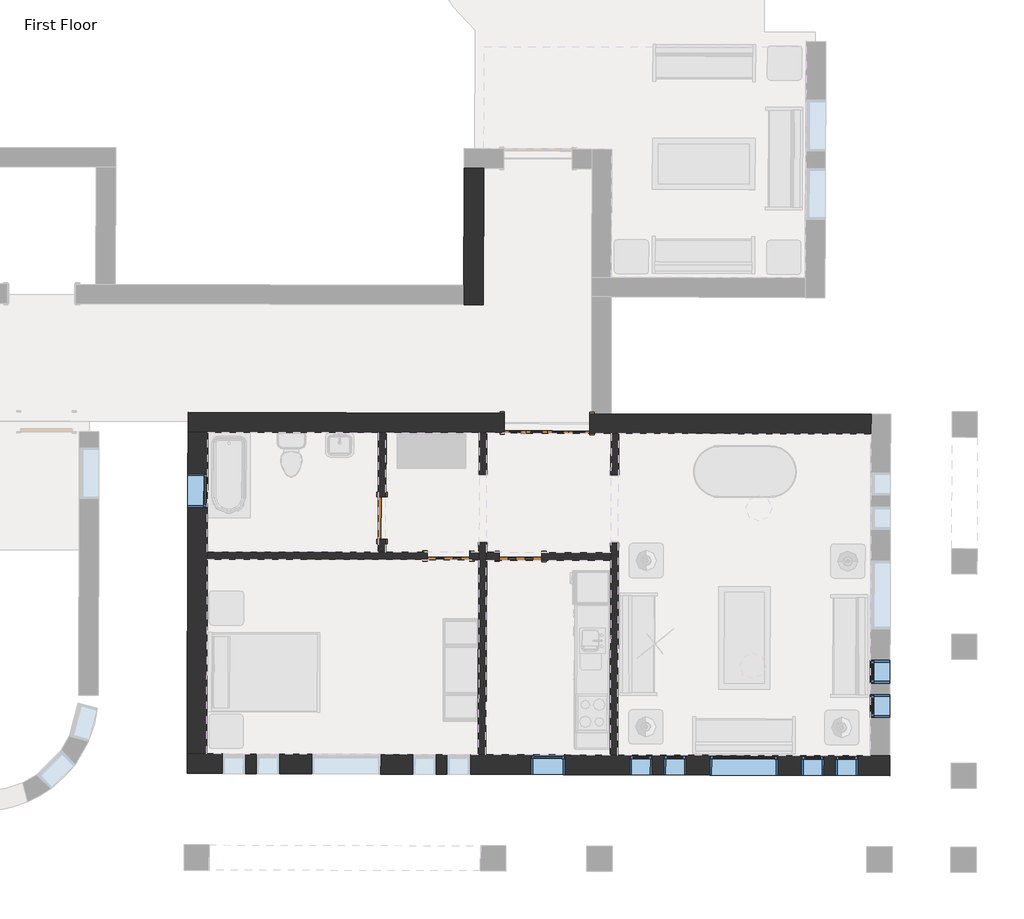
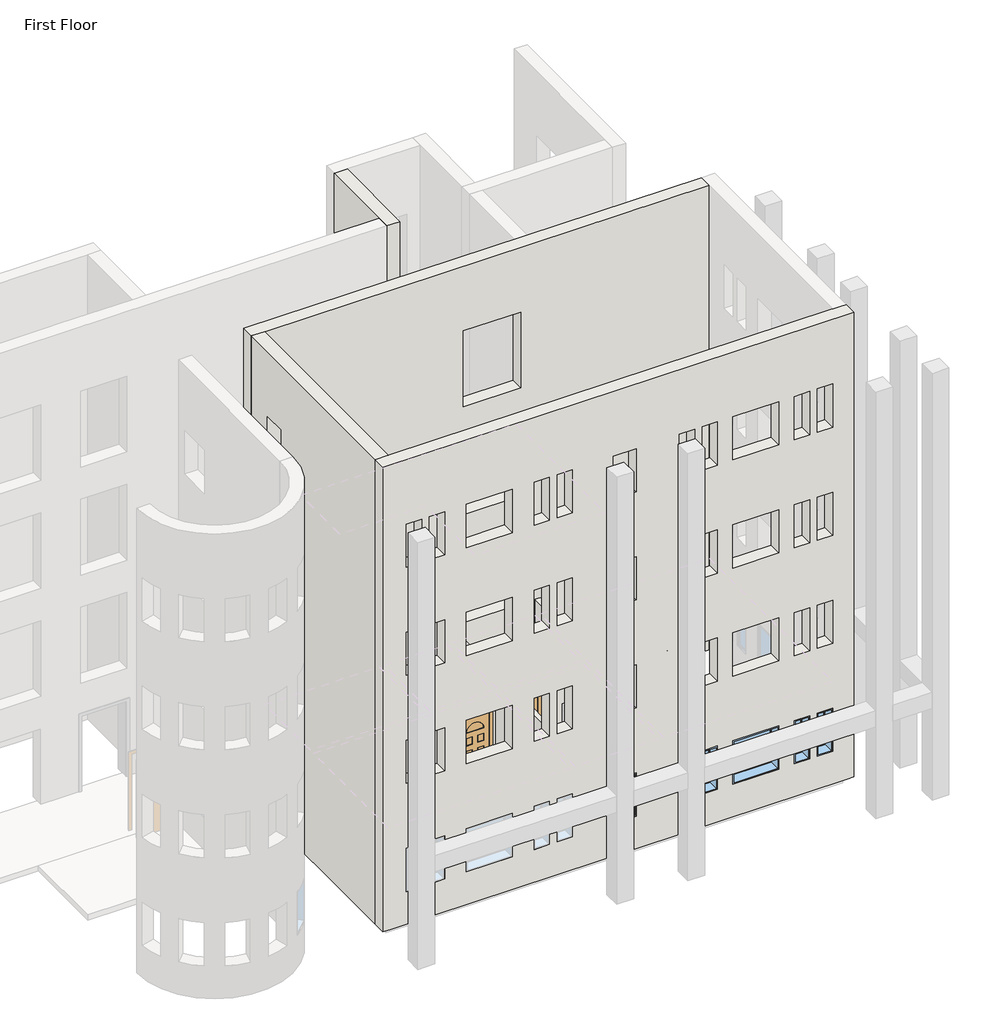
# One storey, part 4 of 23: 9 windows, 8 walls, 4 doors.
"""IFC4 building model written with IfcOpenShell, lengths in millimetres."""

from ifc_helpers import new_model, si_unit, frame, origin, place, context, project, spatial, polyline, outline, extrude, faceted_brep, transform, mapped, element, save
from components import m_bifold_4_panel_1525_x_2134mm_ac598c8b, m_single_decorative_2_0762_x_2134mm_0d0af7cb, m_single_decorative_2_0762_x_2134mm_2fe67c8e, m_single_flush_0762_x_2134mm_a28375c7, m_fixed_0406_x_1220mm_57fee329, m_fixed_0406_x_1220mm_85c28f40, m_fixed_0610_x_1220mm_1ea27827, m_fixed_1220_x_1220mm_8f5f8ad3

model = new_model("IFC4")

# Units and contexts
model_context = context("Model", 3, world=origin())
ifc_project = project(units=[si_unit("LENGTHUNIT", "METRE", prefix="MILLI")], contexts=[model_context])

# Site, building, storey
site = spatial("IfcSite", under=ifc_project)
building = spatial("IfcBuilding", under=site)
storey = spatial("IfcBuildingStorey", under=building, Name="First Floor", Elevation=0.0)

# Doors
placement = place(None, origin())
m_bifold_4_panel_1525_x_2134mm_shape = m_bifold_4_panel_1525_x_2134mm_ac598c8b(model_context)
element("IfcDoor", 1, ObjectType="M_Bifold-4 Panel : 1525 x 2134mm", at=placement, inside=storey, context=model_context, shape_type="MappedRepresentation", body=[
    mapped(m_bifold_4_panel_1525_x_2134mm_shape, transform((-8922.9440871, -35884.2994497, 0.0), x_axis=(0.9999958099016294, -0.0028948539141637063, 0.0), y_axis=(0.0028948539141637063, 0.9999958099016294, 0.0), z_axis=(0.0, 0.0, 1.0))),
])
m_single_decorative_2_0762_x_2134mm_shape = m_single_decorative_2_0762_x_2134mm_0d0af7cb(model_context)
element("IfcDoor", 2, ObjectType="M_Single-Decorative 2 : 0762 x 2134mm", at=placement, inside=storey, context=model_context, shape_type="MappedRepresentation", body=[
    mapped(m_single_decorative_2_0762_x_2134mm_shape, transform((-10682.8170859, -38255.9648119, 0.0), x_axis=(0.9999958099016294, -0.002894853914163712, 0.0), y_axis=(0.002894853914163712, 0.9999958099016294, 0.0), z_axis=(0.0, 0.0, 1.0))),
])
m_single_decorative_2_0762_x_2134mm_2_shape = m_single_decorative_2_0762_x_2134mm_2fe67c8e(model_context)
element("IfcDoor", 3, ObjectType="M_Single-Decorative 2 : 0762 x 2134mm", at=placement, inside=storey, context=model_context, shape_type="MappedRepresentation", body=[
    mapped(m_single_decorative_2_0762_x_2134mm_2_shape, transform((-9396.0724775, -38259.6897652, 0.0), x_axis=(-0.9999958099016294, 0.002894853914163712, 0.0), y_axis=(-0.002894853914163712, -0.9999958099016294, 0.0), z_axis=(0.0, 0.0, 1.0))),
])
m_single_flush_0762_x_2134mm_shape = m_single_flush_0762_x_2134mm_a28375c7(model_context)
element("IfcDoor", 4, ObjectType="M_Single-Flush : 0762 x 2134mm", at=placement, inside=storey, context=model_context, shape_type="MappedRepresentation", body=[
    mapped(m_single_flush_0762_x_2134mm_shape, transform((-11871.3501103, -37574.7713282, 0.0), x_axis=(-0.002894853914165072, -0.9999958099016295, 0.0), y_axis=(0.9999958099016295, -0.002894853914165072, 0.0), z_axis=(0.0, 0.0, 1.0))),
])

# Walls
element("IfcWall", 5, ObjectType="Exterior - Brick on Mtl. Stud", at=placement, inside=storey, context=model_context, shape_type="Brep", body=[
    faceted_brep([(-15350.3208606, -42136.7193311, 0.0), (-15165.3216358, -42137.2548791, 0.0), (-2993.3726377, -42172.4910409, 0.0), (-2808.3734128, -42173.0265889, 0.0), (-2808.3734128, -42173.0265889, 13107.0), (-15350.3208606, -42136.7193311, 13107.0), (-8602.199136, -42156.2542395, 915.0), (-9212.1965801, -42154.4883787, 915.0), (-9212.1965801, -42154.4883787, 2135.0), (-8602.199136, -42156.2542395, 2135.0), (-11898.3353248, -42146.7123668, 915.0), (-13118.3302129, -42143.180645, 915.0), (-13118.3302129, -42143.180645, 2135.0), (-11898.3353248, -42146.7123668, 2135.0), (-4800.4900656, -42167.259678, 915.0), (-6020.4849537, -42163.7279563, 915.0), (-6020.4849537, -42163.7279563, 2135.0), (-4800.4900656, -42167.259678, 2135.0), (-14312.3252099, -42139.7241895, 915.0), (-14718.3235087, -42138.5488788, 915.0), (-14718.3235087, -42138.5488788, 2135.0), (-14312.3252099, -42139.7241895, 2135.0), (-13702.3277659, -42141.4900504, 915.0), (-14108.3260647, -42140.3147397, 915.0), (-14108.3260647, -42140.3147397, 2135.0), (-13702.3277659, -42141.4900504, 2135.0), (-11314.3377718, -42148.4029615, 915.0), (-11314.3377718, -42148.4029615, 2135.0), (-10908.339473, -42149.5782722, 2135.0), (-10908.339473, -42149.5782722, 915.0), (-10704.3403278, -42150.1688224, 915.0), (-10704.3403278, -42150.1688224, 2135.0), (-10298.342029, -42151.3441331, 2135.0), (-10298.342029, -42151.3441331, 915.0), (-6435.3582153, -42162.5269538, 915.0), (-6841.3565142, -42161.3516431, 915.0), (-6841.3565142, -42161.3516431, 2135.0), (-6435.3582153, -42162.5269538, 2135.0), (-7045.3556594, -42160.7610929, 915.0), (-7451.3539582, -42159.5857822, 915.0), (-7451.3539582, -42159.5857822, 2135.0), (-7045.3556594, -42160.7610929, 2135.0), (-4385.616804, -42168.4606806, 915.0), (-4385.616804, -42168.4606806, 2135.0), (-3979.6185052, -42169.6359913, 2135.0), (-3979.6185052, -42169.6359913, 915.0), (-3775.6193599, -42170.2265415, 915.0), (-3775.6193599, -42170.2265415, 2135.0), (-3369.6210611, -42171.4018521, 2135.0), (-3369.6210611, -42171.4018521, 915.0), (-4385.616804, -42168.4606806, 10059.0), (-4385.616804, -42168.4606806, 11279.0), (-3979.6185052, -42169.6359913, 11279.0), (-3979.6185052, -42169.6359913, 10059.0), (-3775.6193599, -42170.2265415, 10059.0), (-3775.6193599, -42170.2265415, 11279.0), (-3369.6210611, -42171.4018521, 11279.0), (-3369.6210611, -42171.4018521, 10059.0), (-6435.3582153, -42162.5269538, 10059.0), (-6841.3565142, -42161.3516431, 10059.0), (-6841.3565142, -42161.3516431, 11279.0), (-6435.3582153, -42162.5269538, 11279.0), (-7045.3556594, -42160.7610929, 10059.0), (-7451.3539582, -42159.5857822, 10059.0), (-7451.3539582, -42159.5857822, 11279.0), (-7045.3556594, -42160.7610929, 11279.0), (-11314.3377718, -42148.4029615, 10059.0), (-11314.3377718, -42148.4029615, 11279.0), (-10908.339473, -42149.5782722, 11279.0), (-10908.339473, -42149.5782722, 10059.0), (-10704.3403278, -42150.1688224, 10059.0), (-10704.3403278, -42150.1688224, 11279.0), (-10298.342029, -42151.3441331, 11279.0), (-10298.342029, -42151.3441331, 10059.0), (-13702.3277659, -42141.4900504, 10059.0), (-14108.3260647, -42140.3147397, 10059.0), (-14108.3260647, -42140.3147397, 11279.0), (-13702.3277659, -42141.4900504, 11279.0), (-14312.3252099, -42139.7241895, 10059.0), (-14718.3235087, -42138.5488788, 10059.0), (-14718.3235087, -42138.5488788, 11279.0), (-14312.3252099, -42139.7241895, 11279.0), (-4800.4900656, -42167.259678, 10059.0), (-6020.4849537, -42163.7279563, 10059.0), (-6020.4849537, -42163.7279563, 11279.0), (-4800.4900656, -42167.259678, 11279.0), (-11898.3353248, -42146.7123668, 10059.0), (-13118.3302129, -42143.180645, 10059.0), (-13118.3302129, -42143.180645, 11279.0), (-11898.3353248, -42146.7123668, 11279.0), (-8602.199136, -42156.2542395, 10059.0), (-9212.1965801, -42154.4883787, 10059.0), (-9212.1965801, -42154.4883787, 11279.0), (-8602.199136, -42156.2542395, 11279.0), (-4385.616804, -42168.4606806, 3963.0), (-4385.616804, -42168.4606806, 5183.0), (-3979.6185052, -42169.6359913, 5183.0), (-3979.6185052, -42169.6359913, 3963.0), (-3775.6193599, -42170.2265415, 3963.0), (-3775.6193599, -42170.2265415, 5183.0), (-3369.6210611, -42171.4018521, 5183.0), (-3369.6210611, -42171.4018521, 3963.0), (-6435.3582153, -42162.5269538, 3963.0), (-6841.3565142, -42161.3516431, 3963.0), (-6841.3565142, -42161.3516431, 5183.0), (-6435.3582153, -42162.5269538, 5183.0), (-7045.3556594, -42160.7610929, 3963.0), (-7451.3539582, -42159.5857822, 3963.0), (-7451.3539582, -42159.5857822, 5183.0), (-7045.3556594, -42160.7610929, 5183.0), (-11314.3377718, -42148.4029615, 3963.0), (-11314.3377718, -42148.4029615, 5183.0), (-10908.339473, -42149.5782722, 5183.0), (-10908.339473, -42149.5782722, 3963.0), (-10704.3403278, -42150.1688224, 3963.0), (-10704.3403278, -42150.1688224, 5183.0), (-10298.342029, -42151.3441331, 5183.0), (-10298.342029, -42151.3441331, 3963.0), (-13702.3277659, -42141.4900504, 3963.0), (-14108.3260647, -42140.3147397, 3963.0), (-14108.3260647, -42140.3147397, 5183.0), (-13702.3277659, -42141.4900504, 5183.0), (-14312.3252099, -42139.7241895, 3963.0), (-14718.3235087, -42138.5488788, 3963.0), (-14718.3235087, -42138.5488788, 5183.0), (-14312.3252099, -42139.7241895, 5183.0), (-4800.4900656, -42167.259678, 3963.0), (-6020.4849537, -42163.7279563, 3963.0), (-6020.4849537, -42163.7279563, 5183.0), (-4800.4900656, -42167.259678, 5183.0), (-11898.3353248, -42146.7123668, 3963.0), (-13118.3302129, -42143.180645, 3963.0), (-13118.3302129, -42143.180645, 5183.0), (-11898.3353248, -42146.7123668, 5183.0), (-8602.199136, -42156.2542395, 3963.0), (-9212.1965801, -42154.4883787, 3963.0), (-9212.1965801, -42154.4883787, 5183.0), (-8602.199136, -42156.2542395, 5183.0), (-4385.616804, -42168.4606806, 7011.0), (-4385.616804, -42168.4606806, 8231.0), (-3979.6185052, -42169.6359913, 8231.0), (-3979.6185052, -42169.6359913, 7011.0), (-3775.6193599, -42170.2265415, 7011.0), (-3775.6193599, -42170.2265415, 8231.0), (-3369.6210611, -42171.4018521, 8231.0), (-3369.6210611, -42171.4018521, 7011.0), (-6435.3582153, -42162.5269538, 7011.0), (-6841.3565142, -42161.3516431, 7011.0), (-6841.3565142, -42161.3516431, 8231.0), (-6435.3582153, -42162.5269538, 8231.0), (-7045.3556594, -42160.7610929, 7011.0), (-7451.3539582, -42159.5857822, 7011.0), (-7451.3539582, -42159.5857822, 8231.0), (-7045.3556594, -42160.7610929, 8231.0), (-11314.3377718, -42148.4029615, 7011.0), (-11314.3377718, -42148.4029615, 8231.0), (-10908.339473, -42149.5782722, 8231.0), (-10908.339473, -42149.5782722, 7011.0), (-10704.3403278, -42150.1688224, 7011.0), (-10704.3403278, -42150.1688224, 8231.0), (-10298.342029, -42151.3441331, 8231.0), (-10298.342029, -42151.3441331, 7011.0), (-13702.3277659, -42141.4900504, 7011.0), (-14108.3260647, -42140.3147397, 7011.0), (-14108.3260647, -42140.3147397, 8231.0), (-13702.3277659, -42141.4900504, 8231.0), (-14312.3252099, -42139.7241895, 7011.0), (-14718.3235087, -42138.5488788, 7011.0), (-14718.3235087, -42138.5488788, 8231.0), (-14312.3252099, -42139.7241895, 8231.0), (-4800.4900656, -42167.259678, 7011.0), (-6020.4849537, -42163.7279563, 7011.0), (-6020.4849537, -42163.7279563, 8231.0), (-4800.4900656, -42167.259678, 8231.0), (-11898.3353248, -42146.7123668, 7011.0), (-13118.3302129, -42143.180645, 7011.0), (-13118.3302129, -42143.180645, 8231.0), (-11898.3353248, -42146.7123668, 8231.0), (-8602.199136, -42156.2542395, 7011.0), (-9212.1965801, -42154.4883787, 7011.0), (-9212.1965801, -42154.4883787, 8231.0), (-8602.199136, -42156.2542395, 8231.0), (-15349.3076617, -41786.7207976, 0.0), (-15349.3076617, -41786.7207976, 13107.0), (-14999.3091283, -41787.7339965, 13107.0), (-3157.3587474, -41822.0148566, 13107.0), (-2807.360214, -41823.0280554, 13107.0), (-2807.360214, -41823.0280554, 0.0), (-2992.3594388, -41822.4925075, 0.0), (-3157.3587474, -41822.0148566, 0.0), (-7661.5898742, -41808.9757108, 0.0), (-7797.0893064, -41808.5834581, 0.0), (-10015.3300117, -41802.1619484, 0.0), (-10150.829444, -41801.7696957, 0.0), (-14999.3091283, -41787.7339965, 0.0), (-15164.3084369, -41787.2563456, 0.0), (-8601.1859371, -41806.2557061, 915.0), (-8601.1859371, -41806.2557061, 2135.0), (-9211.1833812, -41804.4898452, 2135.0), (-9211.1833812, -41804.4898452, 915.0), (-11897.322126, -41796.7138334, 915.0), (-11897.322126, -41796.7138334, 2135.0), (-13117.317014, -41793.1821116, 2135.0), (-13117.317014, -41793.1821116, 915.0), (-4799.4768668, -41817.2611446, 915.0), (-4799.4768668, -41817.2611446, 2135.0), (-6019.4717548, -41813.7294228, 2135.0), (-6019.4717548, -41813.7294228, 915.0), (-14311.3120111, -41789.725656, 915.0), (-14311.3120111, -41789.725656, 2135.0), (-14717.3103099, -41788.5503453, 2135.0), (-14717.3103099, -41788.5503453, 915.0), (-13701.314567, -41791.4915169, 915.0), (-13701.314567, -41791.4915169, 2135.0), (-14107.3128658, -41790.3162062, 2135.0), (-14107.3128658, -41790.3162062, 915.0), (-11313.324573, -41798.404428, 915.0), (-10907.3262742, -41799.5797387, 915.0), (-10907.3262742, -41799.5797387, 2135.0), (-11313.324573, -41798.404428, 2135.0), (-10703.3271289, -41800.1702889, 915.0), (-10297.3288301, -41801.3455996, 915.0), (-10297.3288301, -41801.3455996, 2135.0), (-10703.3271289, -41800.1702889, 2135.0), (-6434.3450165, -41812.5284203, 915.0), (-6434.3450165, -41812.5284203, 2135.0), (-6840.3433153, -41811.3531096, 2135.0), (-6840.3433153, -41811.3531096, 915.0), (-7044.3424605, -41810.7625594, 915.0), (-7044.3424605, -41810.7625594, 2135.0), (-7450.3407593, -41809.5872487, 2135.0), (-7450.3407593, -41809.5872487, 915.0), (-4384.6036051, -41818.4621471, 915.0), (-3978.6053063, -41819.6374578, 915.0), (-3978.6053063, -41819.6374578, 2135.0), (-4384.6036051, -41818.4621471, 2135.0), (-3774.6061611, -41820.228008, 915.0), (-3368.6078623, -41821.4033187, 915.0), (-3368.6078623, -41821.4033187, 2135.0), (-3774.6061611, -41820.228008, 2135.0), (-4384.6036051, -41818.4621471, 10059.0), (-3978.6053063, -41819.6374578, 10059.0), (-3978.6053063, -41819.6374578, 11279.0), (-4384.6036051, -41818.4621471, 11279.0), (-3774.6061611, -41820.228008, 10059.0), (-3368.6078623, -41821.4033187, 10059.0), (-3368.6078623, -41821.4033187, 11279.0), (-3774.6061611, -41820.228008, 11279.0), (-6434.3450165, -41812.5284203, 10059.0), (-6434.3450165, -41812.5284203, 11279.0), (-6840.3433153, -41811.3531096, 11279.0), (-6840.3433153, -41811.3531096, 10059.0), (-7044.3424605, -41810.7625594, 10059.0), (-7044.3424605, -41810.7625594, 11279.0), (-7450.3407593, -41809.5872487, 11279.0), (-7450.3407593, -41809.5872487, 10059.0), (-11313.324573, -41798.404428, 10059.0), (-10907.3262742, -41799.5797387, 10059.0), (-10907.3262742, -41799.5797387, 11279.0), (-11313.324573, -41798.404428, 11279.0), (-10703.3271289, -41800.1702889, 10059.0), (-10297.3288301, -41801.3455996, 10059.0), (-10297.3288301, -41801.3455996, 11279.0), (-10703.3271289, -41800.1702889, 11279.0), (-13701.314567, -41791.4915169, 10059.0), (-13701.314567, -41791.4915169, 11279.0), (-14107.3128658, -41790.3162062, 11279.0), (-14107.3128658, -41790.3162062, 10059.0), (-14311.3120111, -41789.725656, 10059.0), (-14311.3120111, -41789.725656, 11279.0), (-14717.3103099, -41788.5503453, 11279.0), (-14717.3103099, -41788.5503453, 10059.0), (-4799.4768668, -41817.2611446, 10059.0), (-4799.4768668, -41817.2611446, 11279.0), (-6019.4717548, -41813.7294228, 11279.0), (-6019.4717548, -41813.7294228, 10059.0), (-11897.322126, -41796.7138334, 10059.0), (-11897.322126, -41796.7138334, 11279.0), (-13117.317014, -41793.1821116, 11279.0), (-13117.317014, -41793.1821116, 10059.0), (-8601.1859371, -41806.2557061, 10059.0), (-8601.1859371, -41806.2557061, 11279.0), (-9211.1833812, -41804.4898452, 11279.0), (-9211.1833812, -41804.4898452, 10059.0), (-4384.6036051, -41818.4621471, 3963.0), (-3978.6053063, -41819.6374578, 3963.0), (-3978.6053063, -41819.6374578, 5183.0), (-4384.6036051, -41818.4621471, 5183.0), (-3774.6061611, -41820.228008, 3963.0), (-3368.6078623, -41821.4033187, 3963.0), (-3368.6078623, -41821.4033187, 5183.0), (-3774.6061611, -41820.228008, 5183.0), (-6434.3450165, -41812.5284203, 3963.0), (-6434.3450165, -41812.5284203, 5183.0), (-6840.3433153, -41811.3531096, 5183.0), (-6840.3433153, -41811.3531096, 3963.0), (-7044.3424605, -41810.7625594, 3963.0), (-7044.3424605, -41810.7625594, 5183.0), (-7450.3407593, -41809.5872487, 5183.0), (-7450.3407593, -41809.5872487, 3963.0), (-11313.324573, -41798.404428, 3963.0), (-10907.3262742, -41799.5797387, 3963.0), (-10907.3262742, -41799.5797387, 5183.0), (-11313.324573, -41798.404428, 5183.0), (-10703.3271289, -41800.1702889, 3963.0), (-10297.3288301, -41801.3455996, 3963.0), (-10297.3288301, -41801.3455996, 5183.0), (-10703.3271289, -41800.1702889, 5183.0), (-13701.314567, -41791.4915169, 3963.0), (-13701.314567, -41791.4915169, 5183.0), (-14107.3128658, -41790.3162062, 5183.0), (-14107.3128658, -41790.3162062, 3963.0), (-14311.3120111, -41789.725656, 3963.0), (-14311.3120111, -41789.725656, 5183.0), (-14717.3103099, -41788.5503453, 5183.0), (-14717.3103099, -41788.5503453, 3963.0), (-4799.4768668, -41817.2611446, 3963.0), (-4799.4768668, -41817.2611446, 5183.0), (-6019.4717548, -41813.7294228, 5183.0), (-6019.4717548, -41813.7294228, 3963.0), (-11897.322126, -41796.7138334, 3963.0), (-11897.322126, -41796.7138334, 5183.0), (-13117.317014, -41793.1821116, 5183.0), (-13117.317014, -41793.1821116, 3963.0), (-8601.1859371, -41806.2557061, 3963.0), (-8601.1859371, -41806.2557061, 5183.0), (-9211.1833812, -41804.4898452, 5183.0), (-9211.1833812, -41804.4898452, 3963.0), (-4384.6036051, -41818.4621471, 7011.0), (-3978.6053063, -41819.6374578, 7011.0), (-3978.6053063, -41819.6374578, 8231.0), (-4384.6036051, -41818.4621471, 8231.0), (-3774.6061611, -41820.228008, 7011.0), (-3368.6078623, -41821.4033187, 7011.0), (-3368.6078623, -41821.4033187, 8231.0), (-3774.6061611, -41820.228008, 8231.0), (-6434.3450165, -41812.5284203, 7011.0), (-6434.3450165, -41812.5284203, 8231.0), (-6840.3433153, -41811.3531096, 8231.0), (-6840.3433153, -41811.3531096, 7011.0), (-7044.3424605, -41810.7625594, 7011.0), (-7044.3424605, -41810.7625594, 8231.0), (-7450.3407593, -41809.5872487, 8231.0), (-7450.3407593, -41809.5872487, 7011.0), (-11313.324573, -41798.404428, 7011.0), (-10907.3262742, -41799.5797387, 7011.0), (-10907.3262742, -41799.5797387, 8231.0), (-11313.324573, -41798.404428, 8231.0), (-10703.3271289, -41800.1702889, 7011.0), (-10297.3288301, -41801.3455996, 7011.0), (-10297.3288301, -41801.3455996, 8231.0), (-10703.3271289, -41800.1702889, 8231.0), (-13701.314567, -41791.4915169, 7011.0), (-13701.314567, -41791.4915169, 8231.0), (-14107.3128658, -41790.3162062, 8231.0), (-14107.3128658, -41790.3162062, 7011.0), (-14311.3120111, -41789.725656, 7011.0), (-14311.3120111, -41789.725656, 8231.0), (-14717.3103099, -41788.5503453, 8231.0), (-14717.3103099, -41788.5503453, 7011.0), (-4799.4768668, -41817.2611446, 7011.0), (-4799.4768668, -41817.2611446, 8231.0), (-6019.4717548, -41813.7294228, 8231.0), (-6019.4717548, -41813.7294228, 7011.0), (-11897.322126, -41796.7138334, 7011.0), (-11897.322126, -41796.7138334, 8231.0), (-13117.317014, -41793.1821116, 8231.0), (-13117.317014, -41793.1821116, 7011.0), (-8601.1859371, -41806.2557061, 7011.0), (-8601.1859371, -41806.2557061, 8231.0), (-9211.1833812, -41804.4898452, 8231.0), (-9211.1833812, -41804.4898452, 7011.0), (-15349.7853126, -41951.7201063, 0.0), (-2807.8378648, -41988.0273641, 0.0), (-2992.8370897, -41987.4918161, 0.0), (-15164.7860878, -41952.2556543, 0.0)], [[[0, 1, 2, 3, 4, 5], [6, 7, 8, 9], [10, 11, 12, 13], [14, 15, 16, 17], [18, 19, 20, 21], [22, 23, 24, 25], [26, 27, 28, 29], [30, 31, 32, 33], [34, 35, 36, 37], [38, 39, 40, 41], [42, 43, 44, 45], [46, 47, 48, 49], [50, 51, 52, 53], [54, 55, 56, 57], [58, 59, 60, 61], [62, 63, 64, 65], [66, 67, 68, 69], [70, 71, 72, 73], [74, 75, 76, 77], [78, 79, 80, 81], [82, 83, 84, 85], [86, 87, 88, 89], [90, 91, 92, 93], [94, 95, 96, 97], [98, 99, 100, 101], [102, 103, 104, 105], [106, 107, 108, 109], [110, 111, 112, 113], [114, 115, 116, 117], [118, 119, 120, 121], [122, 123, 124, 125], [126, 127, 128, 129], [130, 131, 132, 133], [134, 135, 136, 137], [138, 139, 140, 141], [142, 143, 144, 145], [146, 147, 148, 149], [150, 151, 152, 153], [154, 155, 156, 157], [158, 159, 160, 161], [162, 163, 164, 165], [166, 167, 168, 169], [170, 171, 172, 173], [174, 175, 176, 177], [178, 179, 180, 181]], [[182, 183, 184, 185, 186, 187, 188, 189, 190, 191, 192, 193, 194, 195], [196, 197, 198, 199], [200, 201, 202, 203], [204, 205, 206, 207], [208, 209, 210, 211], [212, 213, 214, 215], [216, 217, 218, 219], [220, 221, 222, 223], [224, 225, 226, 227], [228, 229, 230, 231], [232, 233, 234, 235], [236, 237, 238, 239], [240, 241, 242, 243], [244, 245, 246, 247], [248, 249, 250, 251], [252, 253, 254, 255], [256, 257, 258, 259], [260, 261, 262, 263], [264, 265, 266, 267], [268, 269, 270, 271], [272, 273, 274, 275], [276, 277, 278, 279], [280, 281, 282, 283], [284, 285, 286, 287], [288, 289, 290, 291], [292, 293, 294, 295], [296, 297, 298, 299], [300, 301, 302, 303], [304, 305, 306, 307], [308, 309, 310, 311], [312, 313, 314, 315], [316, 317, 318, 319], [320, 321, 322, 323], [324, 325, 326, 327], [328, 329, 330, 331], [332, 333, 334, 335], [336, 337, 338, 339], [340, 341, 342, 343], [344, 345, 346, 347], [348, 349, 350, 351], [352, 353, 354, 355], [356, 357, 358, 359], [360, 361, 362, 363], [364, 365, 366, 367], [368, 369, 370, 371]], [[5, 4, 186, 185, 184, 183]], [[197, 196, 6, 9]], [[198, 197, 9, 8]], [[199, 198, 8, 7]], [[196, 199, 7, 6]], [[201, 200, 10, 13]], [[202, 201, 13, 12]], [[203, 202, 12, 11]], [[200, 203, 11, 10]], [[205, 204, 14, 17]], [[206, 205, 17, 16]], [[207, 206, 16, 15]], [[204, 207, 15, 14]], [[209, 208, 18, 21]], [[210, 209, 21, 20]], [[211, 210, 20, 19]], [[208, 211, 19, 18]], [[213, 212, 22, 25]], [[214, 213, 25, 24]], [[215, 214, 24, 23]], [[212, 215, 23, 22]], [[27, 26, 216, 219]], [[28, 27, 219, 218]], [[29, 28, 218, 217]], [[26, 29, 217, 216]], [[31, 30, 220, 223]], [[32, 31, 223, 222]], [[33, 32, 222, 221]], [[30, 33, 221, 220]], [[225, 224, 34, 37]], [[226, 225, 37, 36]], [[227, 226, 36, 35]], [[224, 227, 35, 34]], [[229, 228, 38, 41]], [[230, 229, 41, 40]], [[231, 230, 40, 39]], [[228, 231, 39, 38]], [[43, 42, 232, 235]], [[44, 43, 235, 234]], [[45, 44, 234, 233]], [[42, 45, 233, 232]], [[47, 46, 236, 239]], [[48, 47, 239, 238]], [[49, 48, 238, 237]], [[46, 49, 237, 236]], [[51, 50, 240, 243]], [[52, 51, 243, 242]], [[53, 52, 242, 241]], [[50, 53, 241, 240]], [[55, 54, 244, 247]], [[56, 55, 247, 246]], [[57, 56, 246, 245]], [[54, 57, 245, 244]], [[249, 248, 58, 61]], [[250, 249, 61, 60]], [[251, 250, 60, 59]], [[248, 251, 59, 58]], [[253, 252, 62, 65]], [[254, 253, 65, 64]], [[255, 254, 64, 63]], [[252, 255, 63, 62]], [[67, 66, 256, 259]], [[68, 67, 259, 258]], [[69, 68, 258, 257]], [[66, 69, 257, 256]], [[71, 70, 260, 263]], [[72, 71, 263, 262]], [[73, 72, 262, 261]], [[70, 73, 261, 260]], [[265, 264, 74, 77]], [[266, 265, 77, 76]], [[267, 266, 76, 75]], [[264, 267, 75, 74]], [[269, 268, 78, 81]], [[270, 269, 81, 80]], [[271, 270, 80, 79]], [[268, 271, 79, 78]], [[273, 272, 82, 85]], [[274, 273, 85, 84]], [[275, 274, 84, 83]], [[272, 275, 83, 82]], [[277, 276, 86, 89]], [[278, 277, 89, 88]], [[279, 278, 88, 87]], [[276, 279, 87, 86]], [[281, 280, 90, 93]], [[282, 281, 93, 92]], [[283, 282, 92, 91]], [[280, 283, 91, 90]], [[95, 94, 284, 287]], [[96, 95, 287, 286]], [[97, 96, 286, 285]], [[94, 97, 285, 284]], [[99, 98, 288, 291]], [[100, 99, 291, 290]], [[101, 100, 290, 289]], [[98, 101, 289, 288]], [[293, 292, 102, 105]], [[294, 293, 105, 104]], [[295, 294, 104, 103]], [[292, 295, 103, 102]], [[297, 296, 106, 109]], [[298, 297, 109, 108]], [[299, 298, 108, 107]], [[296, 299, 107, 106]], [[111, 110, 300, 303]], [[112, 111, 303, 302]], [[113, 112, 302, 301]], [[110, 113, 301, 300]], [[115, 114, 304, 307]], [[116, 115, 307, 306]], [[117, 116, 306, 305]], [[114, 117, 305, 304]], [[309, 308, 118, 121]], [[310, 309, 121, 120]], [[311, 310, 120, 119]], [[308, 311, 119, 118]], [[313, 312, 122, 125]], [[314, 313, 125, 124]], [[315, 314, 124, 123]], [[312, 315, 123, 122]], [[317, 316, 126, 129]], [[318, 317, 129, 128]], [[319, 318, 128, 127]], [[316, 319, 127, 126]], [[321, 320, 130, 133]], [[322, 321, 133, 132]], [[323, 322, 132, 131]], [[320, 323, 131, 130]], [[325, 324, 134, 137]], [[326, 325, 137, 136]], [[327, 326, 136, 135]], [[324, 327, 135, 134]], [[139, 138, 328, 331]], [[140, 139, 331, 330]], [[141, 140, 330, 329]], [[138, 141, 329, 328]], [[143, 142, 332, 335]], [[144, 143, 335, 334]], [[145, 144, 334, 333]], [[142, 145, 333, 332]], [[337, 336, 146, 149]], [[338, 337, 149, 148]], [[339, 338, 148, 147]], [[336, 339, 147, 146]], [[341, 340, 150, 153]], [[342, 341, 153, 152]], [[343, 342, 152, 151]], [[340, 343, 151, 150]], [[155, 154, 344, 347]], [[156, 155, 347, 346]], [[157, 156, 346, 345]], [[154, 157, 345, 344]], [[159, 158, 348, 351]], [[160, 159, 351, 350]], [[161, 160, 350, 349]], [[158, 161, 349, 348]], [[353, 352, 162, 165]], [[354, 353, 165, 164]], [[355, 354, 164, 163]], [[352, 355, 163, 162]], [[357, 356, 166, 169]], [[358, 357, 169, 168]], [[359, 358, 168, 167]], [[356, 359, 167, 166]], [[361, 360, 170, 173]], [[362, 361, 173, 172]], [[363, 362, 172, 171]], [[360, 363, 171, 170]], [[365, 364, 174, 177]], [[366, 365, 177, 176]], [[367, 366, 176, 175]], [[364, 367, 175, 174]], [[369, 368, 178, 181]], [[370, 369, 181, 180]], [[371, 370, 180, 179]], [[368, 371, 179, 178]], [[0, 5, 183, 182, 372]], [[4, 3, 373, 187, 186]], [[374, 188, 187, 373]], [[3, 2, 374, 373]], [[2, 1, 375, 374]], [[372, 182, 195, 375]], [[1, 0, 372, 375]], [[375, 195, 194, 193, 192, 191, 190, 189, 188, 374]]]),
])
element("IfcWall", 6, ObjectType="Exterior - Brick on Mtl. Stud", at=placement, inside=storey, context=model_context, shape_type="Brep", body=[
    faceted_brep([(-15331.6606323, -35690.7463405, 13107.0), (-3139.711718, -35726.0403994, 13107.0), (-3139.711718, -35726.0403994, 0.0), (-8159.9406826, -35711.507509, 0.0), (-8159.9406826, -35711.507509, 2134.0), (-9684.9342927, -35707.0928568, 2134.0), (-9684.9342927, -35707.0928568, 0.0), (-15331.6606323, -35690.7463405, 0.0), (-8159.9406826, -35711.507509, 9144.0), (-8159.9406826, -35711.507509, 11278.0), (-9684.9342927, -35707.0928568, 11278.0), (-9684.9342927, -35707.0928568, 9144.0), (-8159.9406826, -35711.507509, 3048.0), (-8159.9406826, -35711.507509, 5182.0), (-9684.9342927, -35707.0928568, 5182.0), (-9684.9342927, -35707.0928568, 3048.0), (-8159.9406826, -35711.507509, 6096.0), (-8159.9406826, -35711.507509, 8230.0), (-9684.9342927, -35707.0928568, 8230.0), (-9684.9342927, -35707.0928568, 6096.0), (-3140.7249168, -36076.0389329, 13107.0), (-14982.6752977, -36041.7580728, 13107.0), (-15332.6738311, -36040.7448739, 13107.0), (-15332.6738311, -36040.7448739, 0.0), (-14982.6752977, -36041.7580728, 0.0), (-11934.6880691, -36050.5815875, 0.0), (-11799.1886369, -36050.9738403, 0.0), (-10134.1956134, -36055.793772, 0.0), (-9998.6961811, -36056.1860247, 0.0), (-9685.9474916, -36057.0913903, 0.0), (-9685.9474916, -36057.0913903, 2134.0), (-8160.9538815, -36061.5060425, 2134.0), (-8160.9538815, -36061.5060425, 0.0), (-7780.4554758, -36062.6075344, 0.0), (-7644.9560436, -36062.9997871, 0.0), (-3140.7249168, -36076.0389329, 0.0), (-8160.9538815, -36061.5060425, 9144.0), (-9685.9474916, -36057.0913903, 9144.0), (-9685.9474916, -36057.0913903, 11278.0), (-8160.9538815, -36061.5060425, 11278.0), (-8160.9538815, -36061.5060425, 3048.0), (-9685.9474916, -36057.0913903, 3048.0), (-9685.9474916, -36057.0913903, 5182.0), (-8160.9538815, -36061.5060425, 5182.0), (-8160.9538815, -36061.5060425, 6096.0), (-9685.9474916, -36057.0913903, 6096.0), (-9685.9474916, -36057.0913903, 8230.0), (-8160.9538815, -36061.5060425, 8230.0)], [[[0, 1, 2, 3, 4, 5, 6, 7], [8, 9, 10, 11], [12, 13, 14, 15], [16, 17, 18, 19]], [[20, 21, 22, 23, 24, 25, 26, 27, 28, 29, 30, 31, 32, 33, 34, 35], [36, 37, 38, 39], [40, 41, 42, 43], [44, 45, 46, 47]], [[23, 7, 6, 29, 28, 27, 26, 25, 24]], [[2, 35, 34, 33, 32, 3]], [[1, 0, 22, 21, 20]], [[31, 4, 3, 32]], [[4, 31, 30, 5]], [[5, 30, 29, 6]], [[9, 8, 36, 39]], [[10, 9, 39, 38]], [[11, 10, 38, 37]], [[8, 11, 37, 36]], [[13, 12, 40, 43]], [[14, 13, 43, 42]], [[15, 14, 42, 41]], [[12, 15, 41, 40]], [[17, 16, 44, 47]], [[18, 17, 47, 46]], [[19, 18, 46, 45]], [[16, 19, 45, 44]], [[0, 7, 23, 22]], [[2, 1, 20, 35]]]),
])
element("IfcWall", 7, ObjectType="Exterior - Brick on Mtl. Stud", at=placement, inside=storey, context=model_context, shape_type="Brep", body=[
    faceted_brep([(-15332.6738311, -36040.7448739, 0.0), (-15349.3076617, -41786.7207976, 0.0), (-15349.3076617, -41786.7207976, 13107.0), (-15332.6738311, -36040.7448739, 13107.0), (-15336.5818839, -37390.7392173, 915.0), (-15334.816023, -36780.7417733, 915.0), (-15334.816023, -36780.7417733, 2135.0), (-15336.5818839, -37390.7392173, 2135.0), (-15336.5818839, -37390.7392173, 10059.0), (-15334.816023, -36780.7417733, 10059.0), (-15334.816023, -36780.7417733, 11279.0), (-15336.5818839, -37390.7392173, 11279.0), (-15336.5818839, -37390.7392173, 3963.0), (-15334.816023, -36780.7417733, 3963.0), (-15334.816023, -36780.7417733, 5183.0), (-15336.5818839, -37390.7392173, 5183.0), (-15336.5818839, -37390.7392173, 7011.0), (-15334.816023, -36780.7417733, 7011.0), (-15334.816023, -36780.7417733, 8231.0), (-15336.5818839, -37390.7392173, 8231.0), (-14982.6752977, -36041.7580728, 0.0), (-14982.6752977, -36041.7580728, 13107.0), (-14999.3091283, -41787.7339965, 13107.0), (-14999.3091283, -41787.7339965, 0.0), (-14989.2451686, -38311.2485634, 0.0), (-14988.8529159, -38175.7491311, 0.0), (-14986.5833505, -37391.7524162, 915.0), (-14986.5833505, -37391.7524162, 2135.0), (-14984.8174896, -36781.7549721, 2135.0), (-14984.8174896, -36781.7549721, 915.0), (-14986.5833505, -37391.7524162, 10059.0), (-14986.5833505, -37391.7524162, 11279.0), (-14984.8174896, -36781.7549721, 11279.0), (-14984.8174896, -36781.7549721, 10059.0), (-14986.5833505, -37391.7524162, 3963.0), (-14986.5833505, -37391.7524162, 5183.0), (-14984.8174896, -36781.7549721, 5183.0), (-14984.8174896, -36781.7549721, 3963.0), (-14986.5833505, -37391.7524162, 7011.0), (-14986.5833505, -37391.7524162, 8231.0), (-14984.8174896, -36781.7549721, 8231.0), (-14984.8174896, -36781.7549721, 7011.0), (-15147.6746063, -36041.2804219, 0.0), (-15164.3084369, -41787.2563456, 0.0)], [[[0, 1, 2, 3], [4, 5, 6, 7], [8, 9, 10, 11], [12, 13, 14, 15], [16, 17, 18, 19]], [[20, 21, 22, 23, 24, 25], [26, 27, 28, 29], [30, 31, 32, 33], [34, 35, 36, 37], [38, 39, 40, 41]], [[3, 2, 22, 21]], [[27, 26, 4, 7]], [[28, 27, 7, 6]], [[29, 28, 6, 5]], [[26, 29, 5, 4]], [[31, 30, 8, 11]], [[32, 31, 11, 10]], [[33, 32, 10, 9]], [[30, 33, 9, 8]], [[35, 34, 12, 15]], [[36, 35, 15, 14]], [[37, 36, 14, 13]], [[34, 37, 13, 12]], [[39, 38, 16, 19]], [[40, 39, 19, 18]], [[41, 40, 18, 17]], [[38, 41, 17, 16]], [[0, 3, 21, 20, 42]], [[2, 1, 43, 23, 22]], [[1, 0, 42, 43]], [[42, 20, 25, 24, 23, 43]]]),
])
element("IfcWall", 8, ObjectType="Exterior - Brick on Mtl. Stud", at=placement, inside=storey, context=model_context, shape_type="Brep", body=[
    faceted_brep([(-10402.7584043, -31327.2876841, 0.0), (-10408.8135958, -33418.9877446, 0.0), (-10409.8267947, -33768.9862781, 0.0), (-10409.8267947, -33768.9862781, 13107.0), (-10408.8135958, -33418.9877446, 13107.0), (-10402.7584043, -31327.2876841, 13107.0), (-10052.7613374, -31328.8074814, 0.0), (-10052.7613374, -31328.8074814, 13107.0), (-10059.8282612, -33769.9994769, 13107.0), (-10059.8282612, -33769.9994769, 0.0)], [[[0, 1, 2, 3, 4, 5]], [[6, 7, 8, 9]], [[2, 1, 0, 6, 9]], [[5, 4, 3, 8, 7]], [[3, 2, 9, 8]], [[0, 5, 7, 6]]]),
])
element("IfcWall", 9, ObjectType="Interior - 135mm Partition (2-hr)", at=placement, inside=storey, context=model_context, shape_type="Brep", body=[
    faceted_brep([(-7661.5898742, -41808.9757108, 0.0), (-7650.6270624, -38021.9915787, 0.0), (-7650.6270624, -38021.9915787, 2134.0), (-7647.0953406, -36801.9966906, 2134.0), (-7647.0953406, -36801.9966906, 0.0), (-7644.9560436, -36062.9997871, 0.0), (-7644.9560436, -36062.9997871, 3048.0), (-7661.5898742, -41808.9757108, 3048.0), (-7786.1264946, -38021.599326, 2134.0), (-7786.1264946, -38021.599326, 0.0), (-7786.6330941, -38196.5985928, 0.0), (-7787.0253468, -38332.098025, 0.0), (-7797.0893064, -41808.5834581, 0.0), (-7797.0893064, -41808.5834581, 3048.0), (-7787.0253468, -38332.098025, 3048.0), (-7786.6330941, -38196.5985928, 3048.0), (-7780.4554758, -36062.6075344, 3048.0), (-7780.4554758, -36062.6075344, 0.0), (-7782.5947729, -36801.6044379, 0.0), (-7782.5947729, -36801.6044379, 2134.0)], [[[0, 1, 2, 3, 4, 5, 6, 7]], [[8, 9, 10, 11, 12, 13, 14, 15, 16, 17, 18, 19]], [[18, 17, 5, 4]], [[12, 11, 10, 9, 1, 0]], [[7, 6, 16, 15, 14, 13]], [[4, 3, 19, 18]], [[2, 1, 9, 8]], [[3, 2, 8, 19]], [[6, 5, 17, 16]], [[0, 7, 13, 12]]]),
])
element("IfcWall", 10, ObjectType="Interior - 135mm Partition (2-hr)", at=placement, inside=storey, context=model_context, shape_type="Brep", body=[
    faceted_brep([(-10000.8354782, -36795.1829282, 2134.0), (-10000.8354782, -36795.1829282, 0.0), (-9998.6961811, -36056.1860247, 0.0), (-9998.6961811, -36056.1860247, 3048.0), (-10004.8737994, -38190.1770831, 3048.0), (-10005.2660521, -38325.6765153, 3048.0), (-10015.3300117, -41802.1619484, 3048.0), (-10015.3300117, -41802.1619484, 0.0), (-10005.2660521, -38325.6765153, 0.0), (-10004.8737994, -38190.1770831, 0.0), (-10004.3671999, -38015.1778163, 0.0), (-10004.3671999, -38015.1778163, 2134.0), (-10134.1956134, -36055.793772, 0.0), (-10136.3349104, -36794.7906755, 0.0), (-10136.3349104, -36794.7906755, 2134.0), (-10139.8666322, -38014.7855636, 2134.0), (-10139.8666322, -38014.7855636, 0.0), (-10140.3732316, -38189.7848304, 0.0), (-10140.7654843, -38325.2842626, 0.0), (-10150.829444, -41801.7696957, 0.0), (-10150.829444, -41801.7696957, 3048.0), (-10140.7654843, -38325.2842626, 3048.0), (-10140.3732316, -38189.7848304, 3048.0), (-10134.1956134, -36055.793772, 3048.0)], [[[0, 1, 2, 3, 4, 5, 6, 7, 8, 9, 10, 11]], [[12, 13, 14, 15, 16, 17, 18, 19, 20, 21, 22, 23]], [[2, 1, 13, 12]], [[10, 9, 8, 7, 19, 18, 17, 16]], [[6, 5, 4, 3, 23, 22, 21, 20]], [[16, 15, 11, 10]], [[14, 13, 1, 0]], [[15, 14, 0, 11]], [[3, 2, 12, 23]], [[7, 6, 20, 19]]]),
])
element("IfcWall", 11, ObjectType="Interior - 135mm Partition (2-hr)", at=placement, inside=storey, context=model_context, shape_type="Brep", body=[
    faceted_brep([(-9777.2670074, -38326.336542, 0.0), (-9777.2670074, -38326.336542, 2134.0), (-9015.2702003, -38328.5424207, 2134.0), (-9015.2702003, -38328.5424207, 0.0), (-7787.0253468, -38332.098025, 0.0), (-7787.0253468, -38332.098025, 3048.0), (-10005.2660521, -38325.6765153, 3048.0), (-10005.2660521, -38325.6765153, 0.0), (-9776.8747547, -38190.8371097, 2134.0), (-9776.8747547, -38190.8371097, 0.0), (-10004.8737994, -38190.1770831, 0.0), (-10004.8737994, -38190.1770831, 3048.0), (-7786.6330941, -38196.5985928, 3048.0), (-7786.6330941, -38196.5985928, 0.0), (-9014.8779476, -38193.0429884, 0.0), (-9014.8779476, -38193.0429884, 2134.0)], [[[0, 1, 2, 3, 4, 5, 6, 7]], [[8, 9, 10, 11, 12, 13, 14, 15]], [[9, 0, 7, 10]], [[3, 14, 13, 4]], [[5, 12, 11, 6]], [[1, 0, 9, 8]], [[2, 1, 8, 15]], [[3, 2, 15, 14]], [[5, 4, 13, 12]], [[7, 6, 11, 10]]]),
    faceted_brep([(-10302.0148087, -38324.8174674, 2134.0), (-10302.0148087, -38324.8174674, 0.0), (-10140.7654843, -38325.2842626, 0.0), (-10140.7654843, -38325.2842626, 3048.0), (-14989.2451686, -38311.2485634, 3048.0), (-14989.2451686, -38311.2485634, 0.0), (-11064.0116158, -38322.6115887, 0.0), (-11064.0116158, -38322.6115887, 2134.0), (-10301.622556, -38189.3180352, 0.0), (-10301.622556, -38189.3180352, 2134.0), (-11063.6193631, -38187.1121565, 2134.0), (-11063.6193631, -38187.1121565, 0.0), (-11805.3662551, -38184.9648986, 0.0), (-11940.8656874, -38184.5726459, 0.0), (-14988.8529159, -38175.7491311, 0.0), (-14988.8529159, -38175.7491311, 3048.0), (-11940.8656874, -38184.5726459, 3048.0), (-11805.3662551, -38184.9648986, 3048.0), (-10140.3732316, -38189.7848304, 3048.0), (-10140.3732316, -38189.7848304, 0.0)], [[[0, 1, 2, 3, 4, 5, 6, 7]], [[8, 9, 10, 11, 12, 13, 14, 15, 16, 17, 18, 19]], [[1, 8, 19, 2]], [[11, 6, 5, 14, 13, 12]], [[15, 4, 3, 18, 17, 16]], [[9, 8, 1, 0]], [[10, 9, 0, 7]], [[11, 10, 7, 6]], [[5, 4, 15, 14]], [[3, 2, 19, 18]]]),
])
element("IfcWall", 12, ObjectType="Interior - 135mm Partition (2-hr)", at=placement, inside=storey, context=model_context, shape_type="SweptSolid", body=[
    extrude(outline(polyline([(-2309.0, 0.0), (-2080.0, 0.0), (-2080.0, -2134.0), (-1318.0, -2134.0), (-1318.0, 0.0), (-175.0000001, 0.0), (-175.0000001, -3048.0), (-2309.0, -3048.0), (-2309.0, 0.0)])), frame((-11798.6820374, -35875.9745735, 0.0), z_axis=(-0.9999958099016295, 0.002894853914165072, 0.0), x_axis=(0.002894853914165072, 0.9999958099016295, 0.0)), (0.0, 0.0, 1.0), 135.5),
])

# Windows
m_fixed_0406_x_1220mm_shape = m_fixed_0406_x_1220mm_57fee329(model_context)
element("IfcWindow", 13, ObjectType="M_Fixed : 0406 x 1220mm", at=placement, inside=storey, context=model_context, shape_type="MappedRepresentation", body=[
    mapped(m_fixed_0406_x_1220mm_shape, transform((-3572.1512442, -42008.8148756, 0.0), x_axis=(0.9999958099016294, -0.002894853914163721, 0.0), y_axis=(0.002894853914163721, 0.9999958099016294, 0.0), z_axis=(0.0, 0.0, 1.0))),
])
element("IfcWindow", 14, ObjectType="M_Fixed : 0406 x 1220mm", at=placement, inside=storey, context=model_context, shape_type="MappedRepresentation", body=[
    mapped(m_fixed_0406_x_1220mm_shape, transform((-4182.1486882, -42007.0490147, 0.0), x_axis=(0.9999958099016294, -0.002894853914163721, 0.0), y_axis=(0.002894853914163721, 0.9999958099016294, 0.0), z_axis=(0.0, 0.0, 1.0))),
])
m_fixed_0406_x_1220mm_2_shape = m_fixed_0406_x_1220mm_85c28f40(model_context)
element("IfcWindow", 15, ObjectType="M_Fixed : 0406 x 1220mm", at=placement, inside=storey, context=model_context, shape_type="MappedRepresentation", body=[
    mapped(m_fixed_0406_x_1220mm_2_shape, transform((-7247.8858424, -41998.1741163, 0.0), x_axis=(-0.9999958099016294, 0.002894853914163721, 0.0), y_axis=(-0.002894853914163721, -0.9999958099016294, 0.0), z_axis=(0.0, 0.0, 1.0))),
])
element("IfcWindow", 16, ObjectType="M_Fixed : 0406 x 1220mm", at=placement, inside=storey, context=model_context, shape_type="MappedRepresentation", body=[
    mapped(m_fixed_0406_x_1220mm_2_shape, transform((-6637.8883984, -41999.9399772, 0.0), x_axis=(-0.9999958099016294, 0.002894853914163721, 0.0), y_axis=(-0.002894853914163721, -0.9999958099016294, 0.0), z_axis=(0.0, 0.0, 1.0))),
])
element("IfcWindow", 17, ObjectType="M_Fixed : 0406 x 1220mm", at=placement, inside=storey, context=model_context, shape_type="MappedRepresentation", body=[
    mapped(m_fixed_0406_x_1220mm_2_shape, transform((-2966.7773255, -40930.5628267, 0.0), x_axis=(-0.0028948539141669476, -0.9999958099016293, 0.0), y_axis=(0.9999958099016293, -0.0028948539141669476, 0.0), z_axis=(0.0, 0.0, 1.0))),
])
element("IfcWindow", 18, ObjectType="M_Fixed : 0406 x 1220mm", at=placement, inside=storey, context=model_context, shape_type="MappedRepresentation", body=[
    mapped(m_fixed_0406_x_1220mm_2_shape, transform((-2965.0114646, -40320.5653826, 0.0), x_axis=(-0.0028948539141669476, -0.9999958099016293, 0.0), y_axis=(0.9999958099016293, -0.0028948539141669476, 0.0), z_axis=(0.0, 0.0, 1.0))),
])
m_fixed_0610_x_1220mm_shape = m_fixed_0610_x_1220mm_1ea27827(model_context)
element("IfcWindow", 19, ObjectType="M_Fixed : 0610 x 1220mm", at=placement, inside=storey, context=model_context, shape_type="MappedRepresentation", body=[
    mapped(m_fixed_0610_x_1220mm_shape, transform((-8906.7288917, -41993.3719879, 0.0), x_axis=(-0.9999958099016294, 0.002894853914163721, 0.0), y_axis=(-0.002894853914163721, -0.9999958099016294, 0.0), z_axis=(0.0, 0.0, 1.0))),
])
element("IfcWindow", 20, ObjectType="M_Fixed : 0610 x 1220mm", at=placement, inside=storey, context=model_context, shape_type="MappedRepresentation", body=[
    mapped(m_fixed_0610_x_1220mm_shape, transform((-15173.6996323, -37086.2094616, 0.0), x_axis=(0.0028948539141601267, 0.9999958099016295, 0.0), y_axis=(-0.9999958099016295, 0.0028948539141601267, 0.0), z_axis=(0.0, 0.0, 1.0))),
])
m_fixed_1220_x_1220mm_shape = m_fixed_1220_x_1220mm_8f5f8ad3(model_context)
element("IfcWindow", 21, ObjectType="M_Fixed : 1220 x 1220mm", at=placement, inside=storey, context=model_context, shape_type="MappedRepresentation", body=[
    mapped(m_fixed_1220_x_1220mm_shape, transform((-5410.0185433, -42003.494496, 0.0), x_axis=(-0.9999958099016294, 0.002894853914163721, 0.0), y_axis=(-0.002894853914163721, -0.9999958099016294, 0.0), z_axis=(0.0, 0.0, 1.0))),
])

save(model, "model.ifc")
